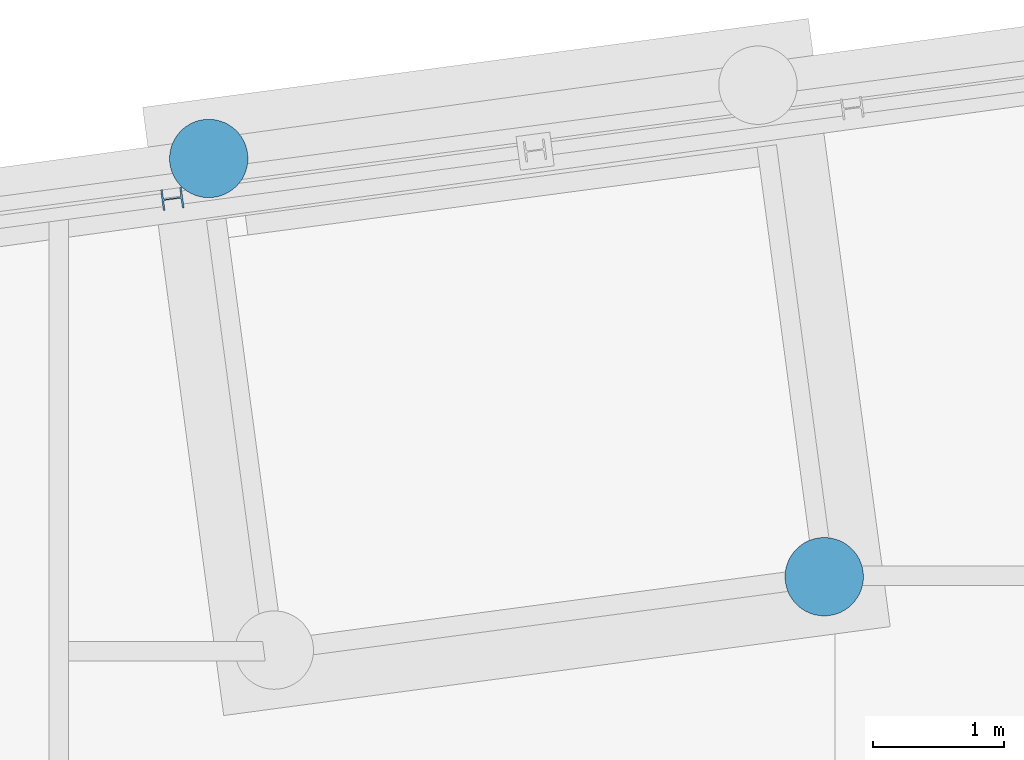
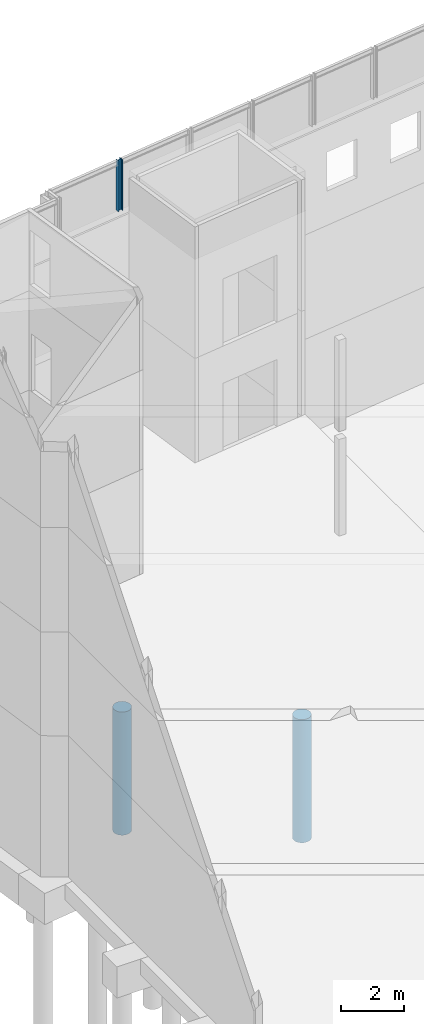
# One storey, part 22 of 82: 3 columns.
"""IFC2X3 building model written with IfcOpenShell, lengths in millimetres."""

from ifc_helpers import new_model, si_unit, frame, frame_2d, origin_with_axes, place, context, subcontext, project, spatial, circle, i_section, extrude, material, type_object, element, save


model = new_model("IFC2X3")

# Units and contexts
model_context = context("Model", 3, precision=1e-05, world=origin_with_axes())
body_context = subcontext(model_context, "Body", "Model", "MODEL_VIEW")
ifc_project = project(units=[si_unit("LENGTHUNIT", "METRE", prefix="MILLI"), si_unit("AREAUNIT", "SQUARE_METRE"), si_unit("VOLUMEUNIT", "CUBIC_METRE"), si_unit("MASSUNIT", "GRAM", prefix="KILO"), si_unit("TIMEUNIT", "SECOND"), si_unit("PLANEANGLEUNIT", "RADIAN"), si_unit("SOLIDANGLEUNIT", "STERADIAN"), si_unit("THERMODYNAMICTEMPERATUREUNIT", "DEGREE_CELSIUS"), si_unit("LUMINOUSINTENSITYUNIT", "LUMEN")], contexts=[model_context])

# Site, building, storey
site_placement = place(None, origin_with_axes())
site = spatial("IfcSite", under=ifc_project, at=site_placement, Name="Undefined", CompositionType="ELEMENT")
building_placement = place(site_placement, origin_with_axes())
building = spatial("IfcBuilding", under=site, at=building_placement, Name="Undefined", CompositionType="ELEMENT")
storey_placement = place(building_placement, origin_with_axes())
storey = spatial("IfcBuildingStorey", under=building, at=storey_placement, Name="Undefined", CompositionType="ELEMENT", Elevation=0.0)

# Columns
ifc_material_1 = material(Name="STEEL/S275JR")
column_type_1 = type_object("IfcColumnType", Name="HEB160", PredefinedType="NOTDEFINED")
column_placement = place(storey_placement, frame((6989.72370140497, 27779.2245725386, 17160.0), z_axis=(0.0, 0.0, 1.0), x_axis=(1.0, 0.0, 0.0)))
element("IfcColumn", 1, at=column_placement, inside=storey, type_object=column_type_1, material=ifc_material_1, Name="POTEAU", ObjectType="HEB160", context=body_context, shape_type="SweptSolid", body=[
    extrude(i_section(OverallWidth=160.0, OverallDepth=160.0, WebThickness=8.0, FlangeThickness=13.0, FilletRadius=15.0, at=frame_2d((5.17284206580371e-08, 4.49290382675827e-10), x_axis=(1.0, 0.0))), frame((0.0, 0.0, 1965.0), z_axis=(0.0, -6.50000002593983e-08, -0.999999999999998), x_axis=(0.132256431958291, -0.991215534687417, 0.0)), (0.0, 0.0, 1.0), 1965.0),
])
ifc_material_2 = material(Name="CONCRETE/C25/30")
column_type_2 = type_object("IfcColumnType", Name="D600", PredefinedType="NOTDEFINED")
for number, where, z_axis, x_axis in (
    (2, (11977.9509481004, 24887.9281387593, -7025.0), (0.0, 0.0, 1.0), (1.0, 0.0, 0.0)),
    (3, (7268.34659610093, 28088.1854715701, -7025.0), (0.0, 0.0, 1.0), (1.0, 0.0, 0.0)),
):
    element("IfcColumn", number, at=place(storey_placement, frame(where, z_axis=z_axis, x_axis=x_axis)), inside=storey, type_object=column_type_2, material=ifc_material_2, Name="PIEU", ObjectType="D600", context=body_context, shape_type="SweptSolid", body=[
        extrude(circle(Radius=300.0, at=frame_2d((5.17284206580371e-08, 4.49290382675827e-10), x_axis=(1.0, 0.0))), frame((0.0, 0.0, 4750.0), z_axis=(0.0, -6.50000002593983e-08, -0.999999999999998), x_axis=(0.99120961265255, 0.132300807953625, 0.0)), (0.0, 0.0, 1.0), 4750.0),
    ])

save(model, "model.ifc")
